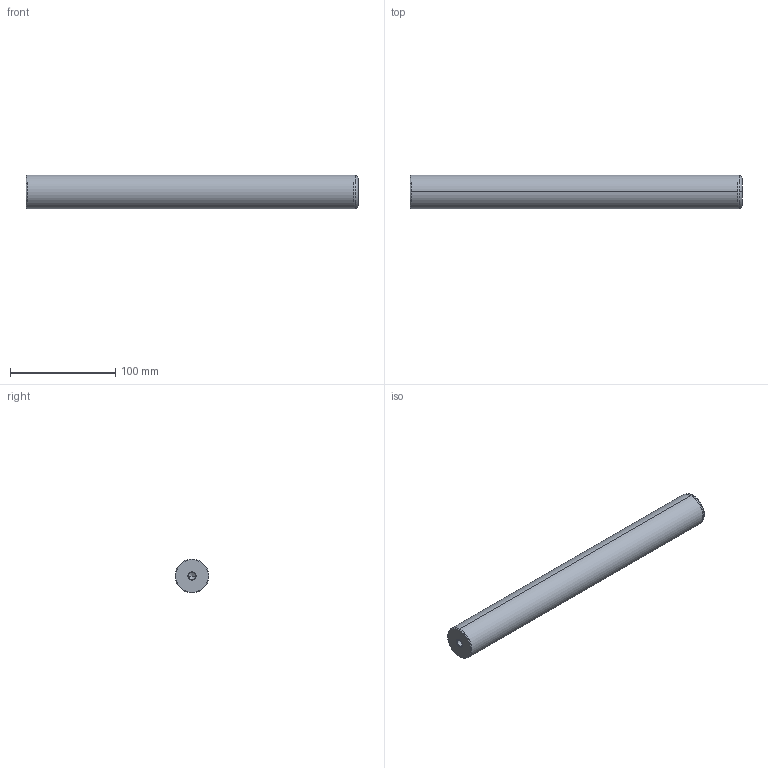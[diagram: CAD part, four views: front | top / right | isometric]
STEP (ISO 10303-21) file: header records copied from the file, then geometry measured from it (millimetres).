
FILE_DESCRIPTION(('CATIA V5 STEP Exchange'),'2;1');
FILE_NAME('C:\Users\Utente\Desktop\IO LAVORO\3D X SITO CF\X SITO\720\720-32x315.stp','2021-01-01T12:13:55+00:00',('none'),('none'),'CATIA Version 5 Release 20 GA (IN-10)','CATIA V5 STEP AP203','none');
FILE_SCHEMA(('CONFIG_CONTROL_DESIGN'));
Length unit declared in the file: millimetre
Products named in the file (1): 720-32x315
Bounding box: 315 x 32 x 32 mm (x, y, z)
Volume: 251285.5 mm3; surface area: 34060 mm2
Topology: 1 solids, 1 shells, 22 faces, 62 edges, 40 vertices
Faces by surface type: cone 12, cylinder 6, plane 2, torus 2
Entity records: 806 total; most frequent: CARTESIAN_POINT 229, ORIENTED_EDGE 116, DIRECTION 93, EDGE_CURVE 58, AXIS2_PLACEMENT_3D 54, VERTEX_POINT 40, CIRCLE 31, EDGE_LOOP 24
